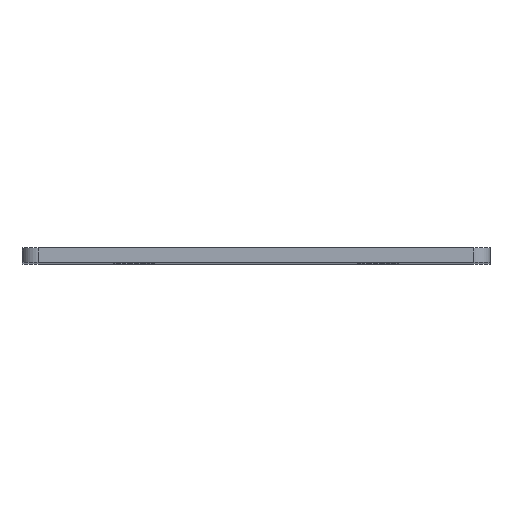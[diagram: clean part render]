
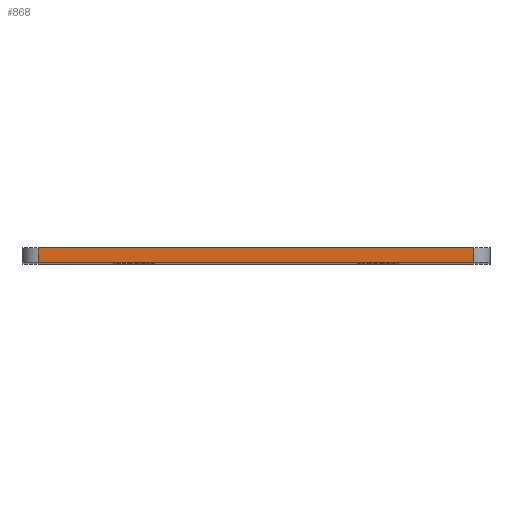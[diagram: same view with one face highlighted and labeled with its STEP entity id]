
A CAD part, top view. The second image highlights one B-rep face of the part: STEP entity #868.
In plain terms, the highlighted planar face has unit normal (0, 0, 1).
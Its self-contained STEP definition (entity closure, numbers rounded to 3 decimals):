
#39 = FACE_OUTER_BOUND ( 'NONE', #540, .T. ) ;
#50 = CARTESIAN_POINT ( 'NONE',  ( 44.39, 3., 173. ) ) ;
#70 = CARTESIAN_POINT ( 'NONE',  ( 44.39, 3., 173. ) ) ;
#108 = DIRECTION ( 'NONE',  ( -1., 0., 0. ) ) ;
#115 = VECTOR ( 'NONE', #270, 1000. ) ;
#119 = CARTESIAN_POINT ( 'NONE',  ( -44.878, 3., 173. ) ) ;
#132 = LINE ( 'NONE', #119, #115 ) ;
#157 = VECTOR ( 'NONE', #108, 1000. ) ;
#166 = VECTOR ( 'NONE', #494, 1000. ) ;
#177 = LINE ( 'NONE', #407, #166 ) ;
#180 = LINE ( 'NONE', #252, #157 ) ;
#192 = VECTOR ( 'NONE', #938, 1000. ) ;
#214 = LINE ( 'NONE', #936, #192 ) ;
#252 = CARTESIAN_POINT ( 'NONE',  ( 44.39, 0., 173. ) ) ;
#270 = DIRECTION ( 'NONE',  ( 0., -1., 0. ) ) ;
#278 = EDGE_CURVE ( 'NONE', #948, #287, #214, .T. ) ;
#287 = VERTEX_POINT ( 'NONE', #745 ) ;
#335 = EDGE_CURVE ( 'NONE', #948, #680, #177, .T. ) ;
#369 = DIRECTION ( 'NONE',  ( 0., 0., 1. ) ) ;
#381 = EDGE_CURVE ( 'NONE', #680, #622, #180, .T. ) ;
#407 = CARTESIAN_POINT ( 'NONE',  ( 44.39, 3., 173. ) ) ;
#482 = AXIS2_PLACEMENT_3D ( 'NONE', #50, #369, #902 ) ;
#493 = EDGE_CURVE ( 'NONE', #287, #622, #132, .T. ) ;
#494 = DIRECTION ( 'NONE',  ( 0., -1., 0. ) ) ;
#540 = EDGE_LOOP ( 'NONE', ( #630, #579, #775, #819 ) ) ;
#579 = ORIENTED_EDGE ( 'NONE', *, *, #335, .F. ) ;
#613 = PLANE ( 'NONE',  #482 ) ;
#622 = VERTEX_POINT ( 'NONE', #728 ) ;
#630 = ORIENTED_EDGE ( 'NONE', *, *, #381, .F. ) ;
#680 = VERTEX_POINT ( 'NONE', #882 ) ;
#728 = CARTESIAN_POINT ( 'NONE',  ( -44.878, 0., 173. ) ) ;
#745 = CARTESIAN_POINT ( 'NONE',  ( -44.878, 3., 173. ) ) ;
#775 = ORIENTED_EDGE ( 'NONE', *, *, #278, .T. ) ;
#819 = ORIENTED_EDGE ( 'NONE', *, *, #493, .T. ) ;
#868 = ADVANCED_FACE ( 'NONE', ( #39 ), #613, .T. ) ;
#882 = CARTESIAN_POINT ( 'NONE',  ( 44.39, 0., 173. ) ) ;
#902 = DIRECTION ( 'NONE',  ( 1., 0., 0. ) ) ;
#936 = CARTESIAN_POINT ( 'NONE',  ( 44.39, 3., 173. ) ) ;
#938 = DIRECTION ( 'NONE',  ( -1., 0., 0. ) ) ;
#948 = VERTEX_POINT ( 'NONE', #70 ) ;
